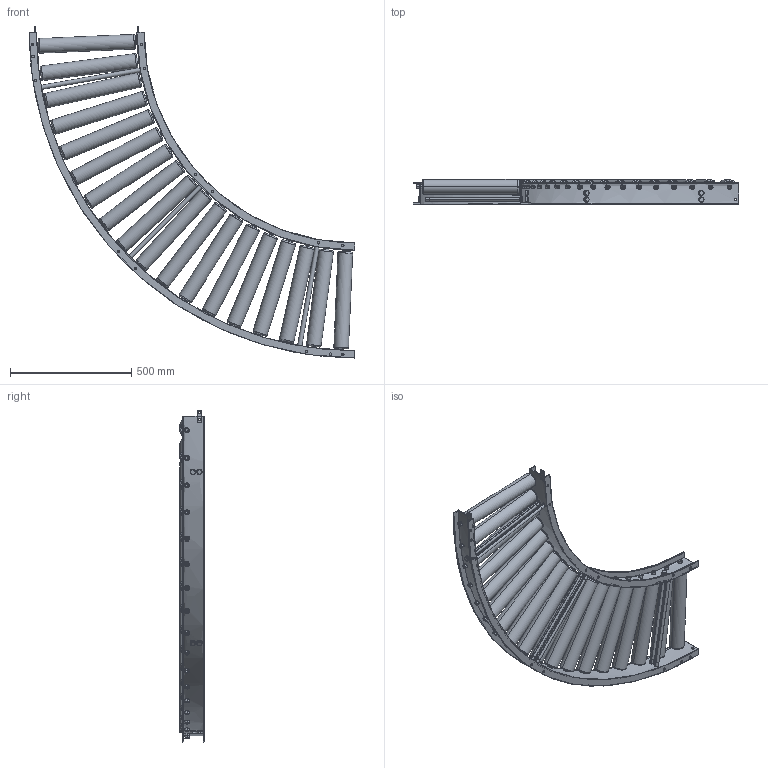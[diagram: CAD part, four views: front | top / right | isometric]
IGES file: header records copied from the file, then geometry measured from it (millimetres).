
Start section: SolidWorks IGES file using analytic representation for surfaces
Global section: file name: C:\Users\0656\Desktop\変換ツール\iges変換\RZ-6032N_C.igs; native system: SolidWorks 2023; preprocessor: SolidWorks 2023; author: 0656; date: 240315.112748; units: millimetre
Bounding box: 1345 x 101.75 x 1370.12 mm (x, y, z)
Surface area: 3889441 mm2 (no closed solid volume)
Topology: 0 solids, 0 shells, 988 faces, 21280 edges, 21280 vertices
Faces by surface type: revolution 526, bspline 462
